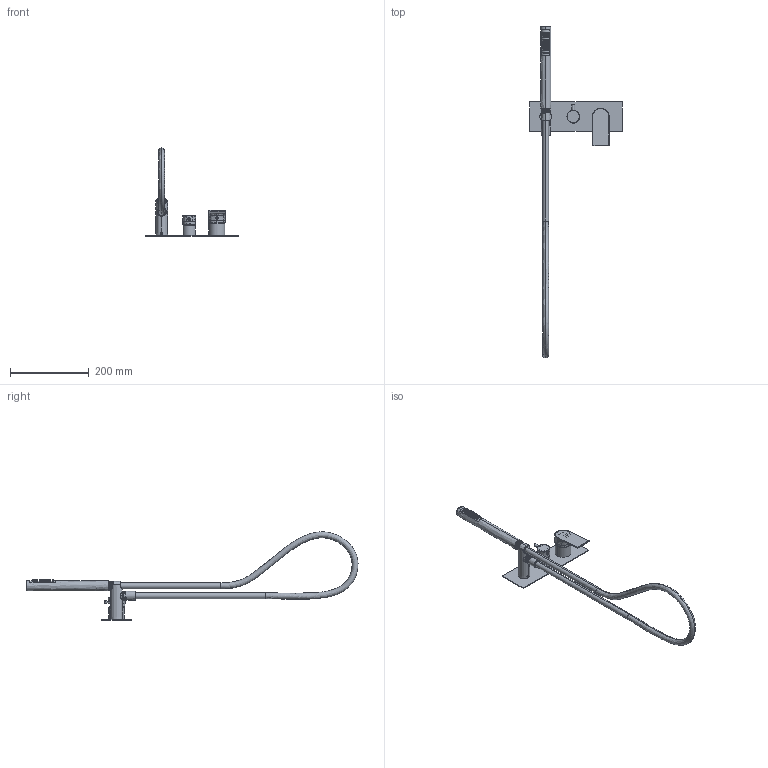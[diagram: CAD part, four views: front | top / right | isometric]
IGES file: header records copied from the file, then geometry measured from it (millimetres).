
Start section:  PTC IGES file: 78529V2.igs
Global section: file name: 78529V2.igs; native system: Creo Parametric by PTC Inc.; preprocessor: 2022014; author: carloff; organization: Unknown; date: 20240913.092423; units: millimetre
Bounding box: 235 x 842.88 x 223.99 mm (x, y, z)
Surface area: 198702.2 mm2 (no closed solid volume)
Topology: 0 solids, 0 shells, 965 faces, 4730 edges, 4704 vertices
Faces by surface type: revolution 578, bspline 385, extrusion 2
